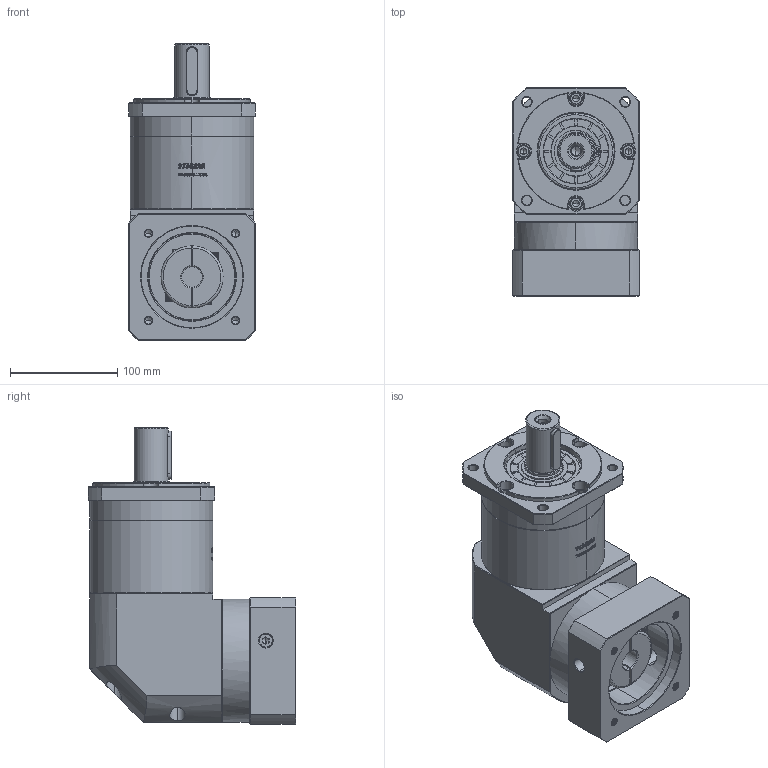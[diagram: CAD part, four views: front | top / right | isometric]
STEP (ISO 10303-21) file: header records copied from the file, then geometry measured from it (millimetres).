
FILE_DESCRIPTION (( 'STEP AP214' ), '1' );
FILE_NAME ('ZFR120A-D32-L2-19-95-115-M8.step', '2023-03-08T08:25:37', ( '' ), ( '' ), 'SwSTEP 2.0', 'SolidWorks 2016', '' );
FILE_SCHEMA (( 'AUTOMOTIVE_DESIGN' ));
Length unit declared in the file: millimetre
Products named in the file (1): ZFR120A-D32-L2-19-95-115-M8
Bounding box: 118 x 193.9 x 276.5 mm (x, y, z)
Volume: 3209941 mm3; surface area: 255394 mm2
Topology: 6 solids, 6 shells, 2869 faces, 7681 edges, 4957 vertices
Faces by surface type: plane 1484, bspline 606, cylinder 434, cone 337, torus 8
Entity records: 158153 total; most frequent: CARTESIAN_POINT 60750, ORIENTED_EDGE 15302, DIRECTION 11132, EDGE_CURVE 7651, VERTEX_POINT 4957, LINE 4748, VECTOR 4748, AXIS2_PLACEMENT_3D 3192
